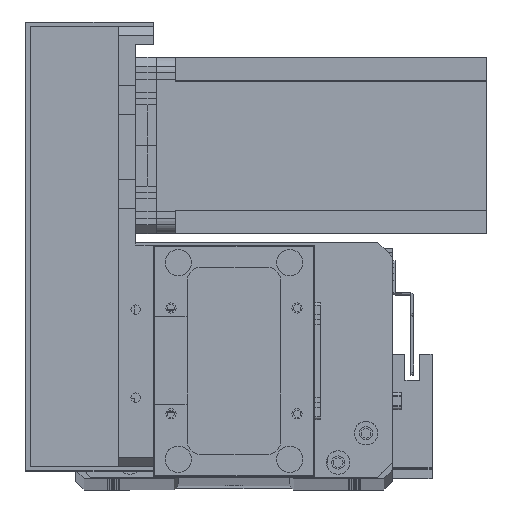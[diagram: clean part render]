
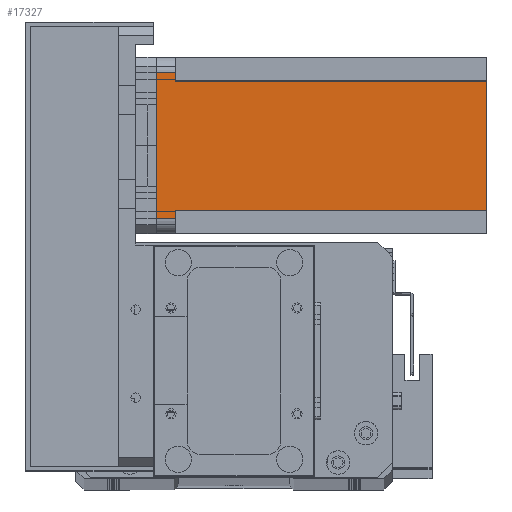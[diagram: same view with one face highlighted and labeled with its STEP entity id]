
A CAD part, top view. The second image highlights one B-rep face of the part: STEP entity #17327.
In plain terms, the highlighted planar face has unit normal (0, 0, 1) as drawn and (0, -1, 0) by its records, which use the part's own axes.
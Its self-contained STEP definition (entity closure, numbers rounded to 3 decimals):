
#107 = ORIENTED_EDGE ( 'NONE', *, *, #20497, .T. ) ;
#184 = CARTESIAN_POINT ( 'NONE',  ( 55., 0., -6.5 ) ) ;
#410 = VECTOR ( 'NONE', #5574, 1000. ) ;
#1138 = LINE ( 'NONE', #28806, #26326 ) ;
#1242 = EDGE_CURVE ( 'NONE', #14418, #32849, #11641, .T. ) ;
#1966 = DIRECTION ( 'NONE',  ( 1., 0., 0. ) ) ;
#3011 = EDGE_CURVE ( 'NONE', #20949, #32849, #31552, .T. ) ;
#3057 = DIRECTION ( 'NONE',  ( 0., 0., -1. ) ) ;
#4273 = VECTOR ( 'NONE', #14213, 1000. ) ;
#4487 = VECTOR ( 'NONE', #1966, 1000. ) ;
#5574 = DIRECTION ( 'NONE',  ( 1., 0., 0. ) ) ;
#5991 = ORIENTED_EDGE ( 'NONE', *, *, #10078, .F. ) ;
#6488 = CARTESIAN_POINT ( 'NONE',  ( 5., 0., -112.5 ) ) ;
#6631 = CARTESIAN_POINT ( 'NONE',  ( 52., 0., -112.5 ) ) ;
#6687 = ORIENTED_EDGE ( 'NONE', *, *, #11791, .F. ) ;
#6739 = CARTESIAN_POINT ( 'NONE',  ( 0., 0., -112.5 ) ) ;
#7175 = VECTOR ( 'NONE', #30768, 1000. ) ;
#7231 = CARTESIAN_POINT ( 'NONE',  ( 55., 0., 0. ) ) ;
#7437 = CARTESIAN_POINT ( 'NONE',  ( 0., 0., -112.5 ) ) ;
#7475 = EDGE_CURVE ( 'NONE', #31777, #26891, #24351, .T. ) ;
#7563 = CARTESIAN_POINT ( 'NONE',  ( 8., 0., -112.5 ) ) ;
#8779 = ORIENTED_EDGE ( 'NONE', *, *, #7475, .F. ) ;
#10078 = EDGE_CURVE ( 'NONE', #20949, #23400, #28557, .T. ) ;
#11215 = LINE ( 'NONE', #16699, #4273 ) ;
#11641 = LINE ( 'NONE', #6631, #32076 ) ;
#11791 = EDGE_CURVE ( 'NONE', #23400, #20428, #11215, .T. ) ;
#12018 = ORIENTED_EDGE ( 'NONE', *, *, #3011, .T. ) ;
#12327 = ORIENTED_EDGE ( 'NONE', *, *, #22202, .T. ) ;
#14213 = DIRECTION ( 'NONE',  ( -1., 0., 0. ) ) ;
#14418 = VERTEX_POINT ( 'NONE', #26971 ) ;
#14592 = PLANE ( 'NONE',  #32325 ) ;
#14900 = LINE ( 'NONE', #15474, #7175 ) ;
#15180 = FACE_OUTER_BOUND ( 'NONE', #30270, .T. ) ;
#15389 = DIRECTION ( 'NONE',  ( 0., 0., 1. ) ) ;
#15406 = VECTOR ( 'NONE', #27132, 1000. ) ;
#15445 = CARTESIAN_POINT ( 'NONE',  ( 8., 0., -112.5 ) ) ;
#15474 = CARTESIAN_POINT ( 'NONE',  ( 55., 0., -112.5 ) ) ;
#16142 = CARTESIAN_POINT ( 'NONE',  ( 5., 0., -6.5 ) ) ;
#16699 = CARTESIAN_POINT ( 'NONE',  ( 8., 0., -6.5 ) ) ;
#17199 = DIRECTION ( 'NONE',  ( 0., 0., -1. ) ) ;
#17327 = ADVANCED_FACE ( 'NONE', ( #15180 ), #14592, .T. ) ;
#18117 = CARTESIAN_POINT ( 'NONE',  ( 8., 0., -6.5 ) ) ;
#19490 = LINE ( 'NONE', #6488, #15406 ) ;
#19769 = ORIENTED_EDGE ( 'NONE', *, *, #30685, .T. ) ;
#20252 = CARTESIAN_POINT ( 'NONE',  ( 0., 0., 0. ) ) ;
#20428 = VERTEX_POINT ( 'NONE', #16142 ) ;
#20497 = EDGE_CURVE ( 'NONE', #31777, #20428, #19490, .T. ) ;
#20880 = CARTESIAN_POINT ( 'NONE',  ( 52., 0., -112.5 ) ) ;
#20949 = VERTEX_POINT ( 'NONE', #15445 ) ;
#21266 = DIRECTION ( 'NONE',  ( 1., 0., 0. ) ) ;
#21297 = ORIENTED_EDGE ( 'NONE', *, *, #1242, .F. ) ;
#22202 = EDGE_CURVE ( 'NONE', #25334, #26891, #14900, .T. ) ;
#23400 = VERTEX_POINT ( 'NONE', #18117 ) ;
#23441 = CARTESIAN_POINT ( 'NONE',  ( 5., 0., 0. ) ) ;
#24351 = LINE ( 'NONE', #20252, #4487 ) ;
#25334 = VERTEX_POINT ( 'NONE', #184 ) ;
#26326 = VECTOR ( 'NONE', #21266, 1000. ) ;
#26891 = VERTEX_POINT ( 'NONE', #7231 ) ;
#26971 = CARTESIAN_POINT ( 'NONE',  ( 52., 0., -6.5 ) ) ;
#27132 = DIRECTION ( 'NONE',  ( 0., 0., -1. ) ) ;
#27794 = VECTOR ( 'NONE', #15389, 1000. ) ;
#28557 = LINE ( 'NONE', #7563, #27794 ) ;
#28806 = CARTESIAN_POINT ( 'NONE',  ( 52., 0., -6.5 ) ) ;
#30270 = EDGE_LOOP ( 'NONE', ( #19769, #12327, #8779, #107, #6687, #5991, #12018, #21297 ) ) ;
#30685 = EDGE_CURVE ( 'NONE', #14418, #25334, #1138, .T. ) ;
#30768 = DIRECTION ( 'NONE',  ( 0., 0., 1. ) ) ;
#31552 = LINE ( 'NONE', #7437, #410 ) ;
#31777 = VERTEX_POINT ( 'NONE', #23441 ) ;
#32076 = VECTOR ( 'NONE', #3057, 1000. ) ;
#32325 = AXIS2_PLACEMENT_3D ( 'NONE', #6739, #32449, #17199 ) ;
#32449 = DIRECTION ( 'NONE',  ( 0., -1., 0. ) ) ;
#32849 = VERTEX_POINT ( 'NONE', #20880 ) ;
